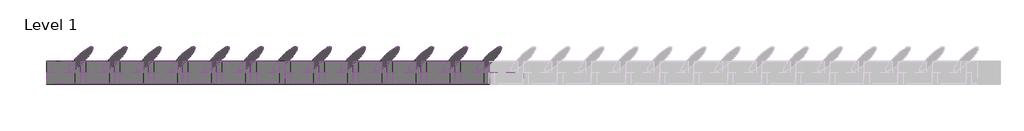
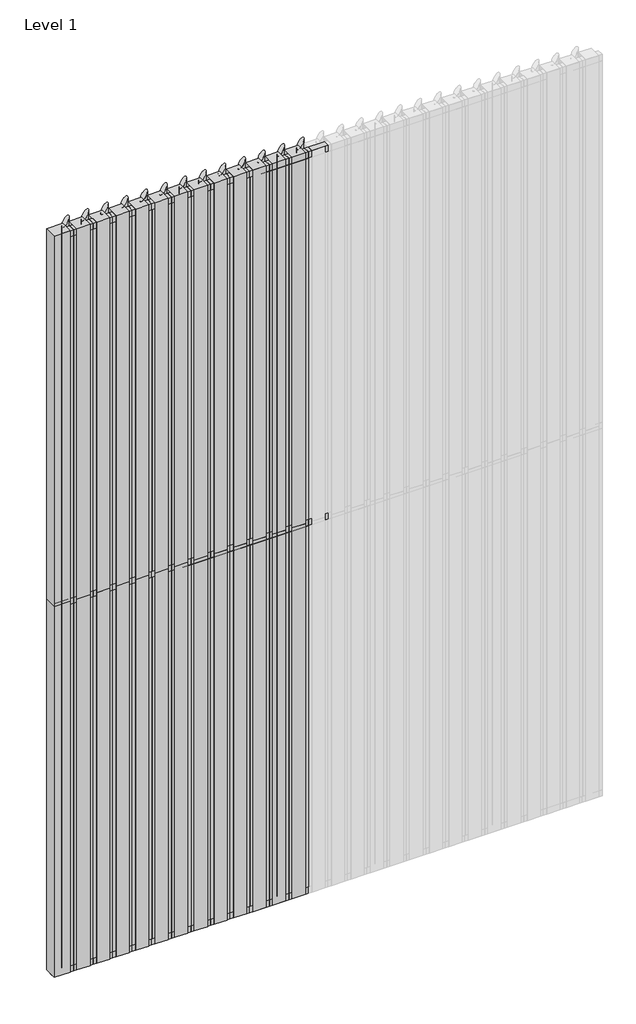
# One storey, part 1 of 3: 67 members, 52 plates.
"""IFC4 building model written with IfcOpenShell, lengths in millimetres."""

import ifcopenshell
import ifcopenshell.guid

model = None  # the IFC model being written
_history = None  # IfcOwnerHistory: only IFC2X3 demands one
_inside = {}  # id of a spatial element -> (the spatial element, [elements in it])
_under = {}  # id of a project, library or spatial element -> (it, [spatial elements below it])
_declared = {}  # id of a project -> (the project, [libraries it declares])
_typed = {}  # id of a type object -> (the type object, [elements of that type])
_made_of = {}  # id of a material, layer set ... -> (it, [elements and type objects made of it])


def new_model(schema):
    """Start an empty IFC model of exactly this schema.

    Asked for "IFC4X3", IfcOpenShell would pick the latest addendum, in which some entities
    have other attributes; the version numbers below select the first issue.
    IFC2X3 requires an IfcOwnerHistory on every rooted entity: one is made here for all.
    """
    global model, _history
    if schema == "IFC4X3":
        model = ifcopenshell.file(schema_version=(4, 3, 0, 0))
    else:
        model = ifcopenshell.file(schema=schema)
    _inside.clear()
    _under.clear()
    _declared.clear()
    _typed.clear()
    _made_of.clear()
    _history = None
    if model.schema == "IFC2X3":
        org = make("IfcOrganization", Name="unknown")
        user = make(
            "IfcPersonAndOrganization",
            ThePerson=make("IfcPerson", FamilyName="unknown"),
            TheOrganization=org,
        )
        app = make(
            "IfcApplication",
            ApplicationDeveloper=org,
            Version="unknown",
            ApplicationFullName="unknown",
            ApplicationIdentifier="unknown",
        )
        _history = make(
            "IfcOwnerHistory",
            OwningUser=user,
            OwningApplication=app,
            ChangeAction="ADDED",
            CreationDate=0,
        )
    return model


def make(cls, **values):
    """One entity of the class cls with the attributes given. An attribute that is None is left unset."""
    return model.create_entity(
        cls, **{name: value for name, value in values.items() if value is not None}
    )


def rooted(cls, **values):
    """An entity with a GlobalId (a new one), such as an element, a storey or a relation."""
    return make(cls, GlobalId=ifcopenshell.guid.new(), OwnerHistory=_history, **values)


def si_unit(unit_type, name, prefix=None):
    """IfcSIUnit, for example si_unit("LENGTHUNIT", "METRE", prefix="MILLI")."""
    return make("IfcSIUnit", UnitType=unit_type, Prefix=prefix, Name=name)


def assignment(units):
    """IfcUnitAssignment: the units of a project."""
    return None if units is None else make("IfcUnitAssignment", Units=units)


def point(xyz):
    """IfcCartesianPoint."""
    return None if xyz is None else make("IfcCartesianPoint", Coordinates=xyz)


def direction(xyz):
    """IfcDirection."""
    return None if xyz is None else make("IfcDirection", DirectionRatios=xyz)


def frame(location, z_axis=None, x_axis=None):
    """IfcAxis2Placement3D, a coordinate frame: its origin and axes. An axis left out is left unset."""
    return make(
        "IfcAxis2Placement3D",
        Location=point(location),
        Axis=direction(z_axis),
        RefDirection=direction(x_axis),
    )


def origin():
    """The frame at (0, 0, 0) with its axes left unset."""
    return frame((0.0, 0.0, 0.0))


def origin_with_axes():
    """The frame at (0, 0, 0) with the z axis (0, 0, 1) and the x axis (1, 0, 0) written out."""
    return frame((0.0, 0.0, 0.0), z_axis=(0.0, 0.0, 1.0), x_axis=(1.0, 0.0, 0.0))


def place(relative_to, where):
    """IfcLocalPlacement: puts the frame where relative to a parent placement (None: the world)."""
    return make(
        "IfcLocalPlacement", PlacementRelTo=relative_to, RelativePlacement=where
    )


def context(
    kind, dimensions, precision=None, world=None, true_north=None, identifier=None
):
    """IfcGeometricRepresentationContext, for example the 3D "Model" context."""
    return make(
        "IfcGeometricRepresentationContext",
        ContextIdentifier=identifier,
        ContextType=kind,
        CoordinateSpaceDimension=dimensions,
        Precision=precision,
        WorldCoordinateSystem=world,
        TrueNorth=true_north,
    )


def project(units=None, contexts=None):
    """IfcProject with its units and contexts."""
    return rooted(
        "IfcProject",
        Name="project",
        RepresentationContexts=contexts,
        UnitsInContext=assignment(units),
    )


def spatial(cls, under=None, at=None, **own):
    """A site, building, storey or space (cls), placed at a placement, below another one or the project."""
    s = rooted(cls, ObjectPlacement=at, **own)
    if under is not None:
        _under.setdefault(under.id(), (under, []))[1].append(s)
    return s


def polyline(points):
    """IfcPolyline through the points."""
    return make("IfcPolyline", Points=[point(p) for p in points])


def ellipse_curve(where, semi_axis1, semi_axis2):
    """IfcEllipse in the frame where."""
    return make(
        "IfcEllipse", Position=where, SemiAxis1=semi_axis1, SemiAxis2=semi_axis2
    )


def trimmed(basis, trim1, trim2, sense, master):
    """IfcTrimmedCurve: the piece of a basis curve between two trims."""
    return make(
        "IfcTrimmedCurve",
        BasisCurve=basis,
        Trim1=trim1,
        Trim2=trim2,
        SenseAgreement=sense,
        MasterRepresentation=master,
    )


def outline(outer, holes=None, kind="AREA"):
    """IfcArbitraryClosedProfileDef: a profile drawn as a closed curve; with holes, ...WithVoids."""
    if holes is None:
        return make("IfcArbitraryClosedProfileDef", ProfileType=kind, OuterCurve=outer)
    return make(
        "IfcArbitraryProfileDefWithVoids",
        ProfileType=kind,
        OuterCurve=outer,
        InnerCurves=holes,
    )


def extrude(swept, where, along, depth):
    """IfcExtrudedAreaSolid: the profile swept, set in the frame where, extruded along a direction by depth."""
    return make(
        "IfcExtrudedAreaSolid",
        SweptArea=swept,
        Position=where,
        ExtrudedDirection=direction(along),
        Depth=depth,
    )


def shape(context_of_items, identifier, shape_type, items):
    """IfcShapeRepresentation: the items that make up one representation, for example the "Body"."""
    return make(
        "IfcShapeRepresentation",
        ContextOfItems=context_of_items,
        RepresentationIdentifier=identifier,
        RepresentationType=shape_type,
        Items=items,
    )


def source(mapping_origin, context_of_items, identifier, shape_type, items):
    """IfcRepresentationMap: a shape defined once, which mapped items show again and again."""
    return make(
        "IfcRepresentationMap",
        MappingOrigin=mapping_origin,
        MappedRepresentation=shape(context_of_items, identifier, shape_type, items),
    )


def transform(
    local_origin,
    x_axis=None,
    y_axis=None,
    z_axis=None,
    scale=None,
    scale2=None,
    scale3=None,
    uniform=True,
):
    """IfcCartesianTransformationOperator3D, or its non-uniform kind. x_axis, y_axis, z_axis: its Axis1, 2, 3."""
    if uniform:
        return make(
            "IfcCartesianTransformationOperator3D",
            Axis1=direction(x_axis),
            Axis2=direction(y_axis),
            LocalOrigin=point(local_origin),
            Scale=scale,
            Axis3=direction(z_axis),
        )
    return make(
        "IfcCartesianTransformationOperator3DnonUniform",
        Axis1=direction(x_axis),
        Axis2=direction(y_axis),
        LocalOrigin=point(local_origin),
        Scale=scale,
        Axis3=direction(z_axis),
        Scale2=scale2,
        Scale3=scale3,
    )


def mapped(mapping_source, mapping_target):
    """IfcMappedItem: shows the shape of a source again, moved by a transform."""
    return make(
        "IfcMappedItem", MappingSource=mapping_source, MappingTarget=mapping_target
    )


def made_of(thing, what):
    """Note that an element or type object is made of a material, layer set ...; save() writes the relation."""
    if what is not None:
        _made_of.setdefault(what.id(), (what, []))[1].append(thing)
    return thing


def element(
    cls,
    number,
    at=None,
    inside=None,
    cuts=None,
    type_object=None,
    material=None,
    context=None,
    identifier="Body",
    shape_type=None,
    held_by="IfcProductDefinitionShape",
    body=None,
    shapes=None,
    **own,
):
    """One element of the class cls, such as IfcWall. Its Tag is "e" and its number.

    at: its placement. inside: the storey or other place that contains it. cuts: it is an
    opening in that element (IfcRelVoidsElement). A single representation is given by context,
    identifier, shape_type and body (its items); several are given by shapes. held_by: the class
    of the entity that holds the representations. save() writes the other relations.
    """
    e = rooted(cls, Tag="e%d" % number, ObjectPlacement=at, **own)
    if body is not None:
        shapes = [shape(context, identifier, shape_type, body)]
    if shapes is not None:
        e.Representation = make(held_by, Representations=shapes)
    if inside is not None:
        _inside.setdefault(inside.id(), (inside, []))[1].append(e)
    if cuts is not None:
        rooted(
            "IfcRelVoidsElement", RelatingBuildingElement=cuts, RelatedOpeningElement=e
        )
    if type_object is not None:
        _typed.setdefault(type_object.id(), (type_object, []))[1].append(e)
    return made_of(e, material)


def aggregate(whole, parts):
    """IfcRelAggregates: a whole, such as a stair, and the parts it consists of."""
    return rooted("IfcRelAggregates", RelatingObject=whole, RelatedObjects=parts)


def save(model, path):
    """Write the relations noted so far, then the file.

    IfcRelAggregates (storeys below a building ...), IfcRelContainedInSpatialStructure (elements
    in a storey), IfcRelDefinesByType, IfcRelAssociatesMaterial and IfcRelDeclares: one each for
    every whole, place, type object, material and project.
    """
    for whole, parts in _under.values():
        aggregate(whole, parts)
    for where, things in _inside.values():
        rooted(
            "IfcRelContainedInSpatialStructure",
            RelatedElements=things,
            RelatingStructure=where,
        )
    for kind, things in _typed.values():
        rooted("IfcRelDefinesByType", RelatedObjects=things, RelatingType=kind)
    for what, things in _made_of.values():
        rooted("IfcRelAssociatesMaterial", RelatedObjects=things, RelatingMaterial=what)
    for by, libraries in _declared.values():
        rooted("IfcRelDeclares", RelatingContext=by, RelatedDefinitions=libraries)
    model.write(path)


def plane_surface(at):
    """IfcPlane: the flat surface through the origin of the frame at, square to its z axis."""
    return make("IfcPlane", Position=at)


def extruded_surface(curve, direction_of_extrusion, depth):
    """IfcSurfaceOfLinearExtrusion: the curve pushed along a direction by depth."""
    return make(
        "IfcSurfaceOfLinearExtrusion",
        SweptCurve=make("IfcArbitraryOpenProfileDef", ProfileType="CURVE", Curve=curve),
        ExtrudedDirection=direction(direction_of_extrusion),
        Depth=depth,
    )


def advanced_brep(points, edges, surfaces, faces):
    """IfcAdvancedBrep: a solid bounded by faces that lie on surfaces and meet in shared edges.

    An edge is (start, end): straight between two places in points (the first is 0);
    or (start, end, curve); or (start, end, curve, False) where it runs against its curve.
    A face is (place in surfaces, loops), or (place, loops, False) where it looks against
    its surface's normal. A loop lists edges by number (the first is 1), with a minus sign
    where the edge is run from its end to its start. The first loop is the outer one.
    """
    corners = [point(p) for p in points]
    vertices = [make("IfcVertexPoint", VertexGeometry=c) for c in corners]
    made = []
    for start, end, *more in edges:
        made.append(
            make(
                "IfcEdgeCurve",
                EdgeStart=vertices[start],
                EdgeEnd=vertices[end],
                EdgeGeometry=more[0] if more else make("IfcPolyline", Points=[corners[start], corners[end]]),
                SameSense=more[1] if len(more) > 1 else True,
            )
        )
    hull = []
    for where, loops, *sense in faces:
        bounds = []
        for j, loop in enumerate(loops):
            ring = [make("IfcOrientedEdge", EdgeElement=made[abs(k) - 1], Orientation=k > 0) for k in loop]
            bounds.append(
                make(
                    "IfcFaceOuterBound" if j == 0 else "IfcFaceBound",
                    Bound=make("IfcEdgeLoop", EdgeList=ring),
                    Orientation=True,
                )
            )
        hull.append(make("IfcAdvancedFace", Bounds=bounds, FaceSurface=surfaces[where], SameSense=sense[0] if sense else True))
    return make("IfcAdvancedBrep", Outer=make("IfcClosedShell", CfsFaces=hull))


def rectangular_mullion_37c1fa86(model_context):
    return source(origin(), model_context, "Body", "AdvancedBrep", [
        advanced_brep(
        [(53.0330086, 6.9669914, 0.0), (-53.0330086, 113.0330086, 0.0), (53.0330086, 6.9669914, -3000.0), (-53.0330086, 113.0330086, -3000.0)],
        [
            (0, 1, ellipse_curve(frame((0.0, 60.0, 0.0), z_axis=(0.0, 0.0, 1.0000000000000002), x_axis=(-0.7071067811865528, 0.7071067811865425, 0.0)), 75.0, 17.5)),
            (1, 0, ellipse_curve(frame((0.0, 60.0, 0.0), z_axis=(0.0, 0.0, 1.0000000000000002), x_axis=(-0.7071067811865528, 0.7071067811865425, 0.0)), 75.0, 17.5)),
            (2, 3, ellipse_curve(frame((0.0, 60.0, -3000.0), z_axis=(0.0, 0.0, -1.0000000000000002), x_axis=(-0.7071067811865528, 0.7071067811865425, 0.0)), 75.0, 17.5)),
            (3, 2, ellipse_curve(frame((0.0, 60.0, -3000.0), z_axis=(0.0, 0.0, -1.0000000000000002), x_axis=(-0.7071067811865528, 0.7071067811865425, 0.0)), 75.0, 17.5)),
            (0, 2),
            (3, 1),
        ],
        [
            plane_surface(frame((0.0, -124.8557609, 0.0), z_axis=(0.0, 0.0, 1.0), x_axis=(-1.0, 0.0, 0.0))),
            plane_surface(frame((0.0, -124.8557609, -3000.0), z_axis=(0.0, 0.0, -1.0), x_axis=(-1.0, 0.0, 0.0))),
            extruded_surface(trimmed(ellipse_curve(frame((0.0, 60.0, -3000.0), z_axis=(0.0, 0.0, 1.0000000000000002), x_axis=(-0.7071067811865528, 0.7071067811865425, 0.0)), 75.0, 17.5), [point((53.0330086, 6.9669914, -3000.0))], [point((-53.0330086, 113.0330086, -3000.0))], True, "CARTESIAN"), (0.0, 0.0, 3000.0), 3000.0),
            extruded_surface(trimmed(ellipse_curve(frame((0.0, 60.0, -3000.0), z_axis=(0.0, 0.0, 1.0000000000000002), x_axis=(-0.7071067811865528, 0.7071067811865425, 0.0)), 75.0, 17.5), [point((-53.0330086, 113.0330086, -3000.0))], [point((53.0330086, 6.9669914, -3000.0))], True, "CARTESIAN"), (0.0, 0.0, 3000.0), 3000.0),
        ],
        [
            (0, [[1, 2]]),
            (1, [[3, 4]]),
            (2, [[-1, 5, -4, 6]]),
            (3, [[-2, -6, -3, -5]]),
        ],
    ),
    ])


def rectangular_mullion_6265e8b1(model_context):
    return source(origin(), model_context, "Body", "SweptSolid", [
        extrude(outline(polyline([(0.0, 1.0), (0.0, -49.0), (-50.0, -49.0), (-50.0, 1.0), (0.0, 1.0)])), frame((0.0, 0.0, -150.0), z_axis=(0.0, 0.0, 1.0), x_axis=(1.0, 0.0, 0.0)), (0.0, 0.0, 1.0), 150.0),
    ])


def rectangular_mullion_64cc6fdd(model_context):
    return source(origin(), model_context, "Body", "SweptSolid", [
        extrude(outline(polyline([(-50.0, 1.0), (0.0, 1.0), (0.0, -49.0), (-50.0, -49.0), (-50.0, 1.0)])), frame((0.0, 0.0, -150.0), z_axis=(0.0, 0.0, 1.0), x_axis=(1.0, 0.0, 0.0)), (0.0, 0.0, 1.0), 150.0),
    ])


def rectangular_mullion_eb4a5411(model_context):
    return source(origin(), model_context, "Body", "SweptSolid", [
        extrude(outline(polyline([(25.0, 1.0), (25.0, -49.0), (-25.0, -49.0), (-25.0, 1.0), (25.0, 1.0)])), frame((0.0, 0.0, -150.0), z_axis=(0.0, 0.0, 1.0), x_axis=(1.0, 0.0, 0.0)), (0.0, 0.0, 1.0), 150.0),
    ])


def empty_system_panel_empty_d66da160(model_context):
    return source(origin(), model_context, "Body", "SweptSolid", [
        extrude(outline(polyline([(62.6256313, -50.0), (-62.6256313, -50.0), (-62.6256313, 50.0), (62.6256313, 50.0), (62.6256313, -50.0)])), origin_with_axes(), (0.0, 0.0, 1.0), 3000.0),
    ])


def empty_system_panel_empty_f8daaecc(model_context):
    return source(origin(), model_context, "Body", "SweptSolid", [
        extrude(outline(polyline([(50.2512627, -50.0), (-50.2512627, -50.0), (-50.2512627, 50.0), (50.2512627, 50.0), (50.2512627, -50.0)])), origin_with_axes(), (0.0, 0.0, 1.0), 3000.0),
    ])


def empty_system_panel_empty_64907904(model_context):
    return source(origin(), model_context, "Body", "SweptSolid", [
        extrude(outline(polyline([(75.0, -50.0), (-75.0, -50.0), (-75.0, 50.0), (75.0, 50.0), (75.0, -50.0)])), origin_with_axes(), (0.0, 0.0, 1.0), 2925.0),
    ])


model = new_model("IFC4")

# Units and contexts
model_context = context("Model", 3, world=origin())
ifc_project = project(units=[si_unit("LENGTHUNIT", "METRE", prefix="MILLI")], contexts=[model_context])

# Site, building, storey
site = spatial("IfcSite", under=ifc_project)
building = spatial("IfcBuilding", under=site)
storey = spatial("IfcBuildingStorey", under=building, Name="Level 1", Elevation=0.0)

# Members
placement = place(None, origin())
rectangular_mullion_shape = rectangular_mullion_37c1fa86(model_context)
element("IfcMember", 1, ObjectType="Rectangular Mullion : RSen_21_CWM_blade - 150 ellips - 45°_gen_duco projects", at=placement, inside=storey, context=model_context, shape_type="MappedRepresentation", body=[
    mapped(rectangular_mullion_shape, transform((1950.0, 3000.0, 0.0), x_axis=(-1.0, 0.0, 0.0), y_axis=(0.0, 1.0, 0.0), z_axis=(0.0, 0.0, -1.0))),
])
element("IfcMember", 2, ObjectType="Rectangular Mullion : RSen_21_CWM_blade - 150 ellips - 45°_gen_duco projects", at=placement, inside=storey, context=model_context, shape_type="MappedRepresentation", body=[
    mapped(rectangular_mullion_shape, transform((1800.0, 3000.0, 0.0), x_axis=(-1.0, 0.0, 0.0), y_axis=(0.0, 1.0, 0.0), z_axis=(0.0, 0.0, -1.0))),
])
element("IfcMember", 3, ObjectType="Rectangular Mullion : RSen_21_CWM_blade - 150 ellips - 45°_gen_duco projects", at=placement, inside=storey, context=model_context, shape_type="MappedRepresentation", body=[
    mapped(rectangular_mullion_shape, transform((1650.0, 3000.0, 0.0), x_axis=(-1.0, 0.0, 0.0), y_axis=(0.0, 1.0, 0.0), z_axis=(0.0, 0.0, -1.0))),
])
element("IfcMember", 4, ObjectType="Rectangular Mullion : RSen_21_CWM_blade - 150 ellips - 45°_gen_duco projects", at=placement, inside=storey, context=model_context, shape_type="MappedRepresentation", body=[
    mapped(rectangular_mullion_shape, transform((1500.0, 3000.0, 0.0), x_axis=(-1.0, 0.0, 0.0), y_axis=(0.0, 1.0, 0.0), z_axis=(0.0, 0.0, -1.0))),
])
element("IfcMember", 5, ObjectType="Rectangular Mullion : RSen_21_CWM_blade - 150 ellips - 45°_gen_duco projects", at=placement, inside=storey, context=model_context, shape_type="MappedRepresentation", body=[
    mapped(rectangular_mullion_shape, transform((1350.0, 3000.0, 0.0), x_axis=(-1.0, 0.0, 0.0), y_axis=(0.0, 1.0, 0.0), z_axis=(0.0, 0.0, -1.0))),
])
element("IfcMember", 6, ObjectType="Rectangular Mullion : RSen_21_CWM_blade - 150 ellips - 45°_gen_duco projects", at=placement, inside=storey, context=model_context, shape_type="MappedRepresentation", body=[
    mapped(rectangular_mullion_shape, transform((1200.0, 3000.0, 0.0), x_axis=(-1.0, 0.0, 0.0), y_axis=(0.0, 1.0, 0.0), z_axis=(0.0, 0.0, -1.0))),
])
element("IfcMember", 7, ObjectType="Rectangular Mullion : RSen_21_CWM_blade - 150 ellips - 45°_gen_duco projects", at=placement, inside=storey, context=model_context, shape_type="MappedRepresentation", body=[
    mapped(rectangular_mullion_shape, transform((1050.0, 3000.0, 0.0), x_axis=(-1.0, 0.0, 0.0), y_axis=(0.0, 1.0, 0.0), z_axis=(0.0, 0.0, -1.0))),
])
element("IfcMember", 8, ObjectType="Rectangular Mullion : RSen_21_CWM_blade - 150 ellips - 45°_gen_duco projects", at=placement, inside=storey, context=model_context, shape_type="MappedRepresentation", body=[
    mapped(rectangular_mullion_shape, transform((900.0, 3000.0, 0.0), x_axis=(-1.0, 0.0, 0.0), y_axis=(0.0, 1.0, 0.0), z_axis=(0.0, 0.0, -1.0))),
])
element("IfcMember", 9, ObjectType="Rectangular Mullion : RSen_21_CWM_blade - 150 ellips - 45°_gen_duco projects", at=placement, inside=storey, context=model_context, shape_type="MappedRepresentation", body=[
    mapped(rectangular_mullion_shape, transform((750.0, 3000.0, 0.0), x_axis=(-1.0, 0.0, 0.0), y_axis=(0.0, 1.0, 0.0), z_axis=(0.0, 0.0, -1.0))),
])
element("IfcMember", 10, ObjectType="Rectangular Mullion : RSen_21_CWM_blade - 150 ellips - 45°_gen_duco projects", at=placement, inside=storey, context=model_context, shape_type="MappedRepresentation", body=[
    mapped(rectangular_mullion_shape, transform((600.0, 3000.0, 0.0), x_axis=(-1.0, 0.0, 0.0), y_axis=(0.0, 1.0, 0.0), z_axis=(0.0, 0.0, -1.0))),
])
element("IfcMember", 11, ObjectType="Rectangular Mullion : RSen_21_CWM_blade - 150 ellips - 45°_gen_duco projects", at=placement, inside=storey, context=model_context, shape_type="MappedRepresentation", body=[
    mapped(rectangular_mullion_shape, transform((450.0, 3000.0, 0.0), x_axis=(-1.0, 0.0, 0.0), y_axis=(0.0, 1.0, 0.0), z_axis=(0.0, 0.0, -1.0))),
])
element("IfcMember", 12, ObjectType="Rectangular Mullion : RSen_21_CWM_blade - 150 ellips - 45°_gen_duco projects", at=placement, inside=storey, context=model_context, shape_type="MappedRepresentation", body=[
    mapped(rectangular_mullion_shape, transform((300.0, 3000.0, 0.0), x_axis=(-1.0, 0.0, 0.0), y_axis=(0.0, 1.0, 0.0), z_axis=(0.0, 0.0, -1.0))),
])
element("IfcMember", 13, ObjectType="Rectangular Mullion : RSen_21_CWM_blade - 150 ellips - 45°_gen_duco projects", at=placement, inside=storey, context=model_context, shape_type="MappedRepresentation", body=[
    mapped(rectangular_mullion_shape, transform((150.0, 3000.0, 0.0), x_axis=(-1.0, 0.0, 0.0), y_axis=(0.0, 1.0, 0.0), z_axis=(0.0, 0.0, -1.0))),
])
element("IfcMember", 14, ObjectType="Rectangular Mullion : RSen_21_CWM_blade - 150 ellips - 45°_gen_duco projects", at=placement, inside=storey, context=model_context, shape_type="MappedRepresentation", body=[
    mapped(rectangular_mullion_shape, transform((1950.0, 3000.0, 3000.0), x_axis=(-1.0, 0.0, 0.0), y_axis=(0.0, 1.0, 0.0), z_axis=(0.0, 0.0, -1.0))),
])
element("IfcMember", 15, ObjectType="Rectangular Mullion : RSen_21_CWM_blade - 150 ellips - 45°_gen_duco projects", at=placement, inside=storey, context=model_context, shape_type="MappedRepresentation", body=[
    mapped(rectangular_mullion_shape, transform((1800.0, 3000.0, 3000.0), x_axis=(-1.0, 0.0, 0.0), y_axis=(0.0, 1.0, 0.0), z_axis=(0.0, 0.0, -1.0))),
])
element("IfcMember", 16, ObjectType="Rectangular Mullion : RSen_21_CWM_blade - 150 ellips - 45°_gen_duco projects", at=placement, inside=storey, context=model_context, shape_type="MappedRepresentation", body=[
    mapped(rectangular_mullion_shape, transform((1650.0, 3000.0, 3000.0), x_axis=(-1.0, 0.0, 0.0), y_axis=(0.0, 1.0, 0.0), z_axis=(0.0, 0.0, -1.0))),
])
element("IfcMember", 17, ObjectType="Rectangular Mullion : RSen_21_CWM_blade - 150 ellips - 45°_gen_duco projects", at=placement, inside=storey, context=model_context, shape_type="MappedRepresentation", body=[
    mapped(rectangular_mullion_shape, transform((1500.0, 3000.0, 3000.0), x_axis=(-1.0, 0.0, 0.0), y_axis=(0.0, 1.0, 0.0), z_axis=(0.0, 0.0, -1.0))),
])
element("IfcMember", 18, ObjectType="Rectangular Mullion : RSen_21_CWM_blade - 150 ellips - 45°_gen_duco projects", at=placement, inside=storey, context=model_context, shape_type="MappedRepresentation", body=[
    mapped(rectangular_mullion_shape, transform((1350.0, 3000.0, 3000.0), x_axis=(-1.0, 0.0, 0.0), y_axis=(0.0, 1.0, 0.0), z_axis=(0.0, 0.0, -1.0))),
])
element("IfcMember", 19, ObjectType="Rectangular Mullion : RSen_21_CWM_blade - 150 ellips - 45°_gen_duco projects", at=placement, inside=storey, context=model_context, shape_type="MappedRepresentation", body=[
    mapped(rectangular_mullion_shape, transform((1200.0, 3000.0, 3000.0), x_axis=(-1.0, 0.0, 0.0), y_axis=(0.0, 1.0, 0.0), z_axis=(0.0, 0.0, -1.0))),
])
element("IfcMember", 20, ObjectType="Rectangular Mullion : RSen_21_CWM_blade - 150 ellips - 45°_gen_duco projects", at=placement, inside=storey, context=model_context, shape_type="MappedRepresentation", body=[
    mapped(rectangular_mullion_shape, transform((1050.0, 3000.0, 3000.0), x_axis=(-1.0, 0.0, 0.0), y_axis=(0.0, 1.0, 0.0), z_axis=(0.0, 0.0, -1.0))),
])
element("IfcMember", 21, ObjectType="Rectangular Mullion : RSen_21_CWM_blade - 150 ellips - 45°_gen_duco projects", at=placement, inside=storey, context=model_context, shape_type="MappedRepresentation", body=[
    mapped(rectangular_mullion_shape, transform((900.0, 3000.0, 3000.0), x_axis=(-1.0, 0.0, 0.0), y_axis=(0.0, 1.0, 0.0), z_axis=(0.0, 0.0, -1.0))),
])
element("IfcMember", 22, ObjectType="Rectangular Mullion : RSen_21_CWM_blade - 150 ellips - 45°_gen_duco projects", at=placement, inside=storey, context=model_context, shape_type="MappedRepresentation", body=[
    mapped(rectangular_mullion_shape, transform((750.0, 3000.0, 3000.0), x_axis=(-1.0, 0.0, 0.0), y_axis=(0.0, 1.0, 0.0), z_axis=(0.0, 0.0, -1.0))),
])
element("IfcMember", 23, ObjectType="Rectangular Mullion : RSen_21_CWM_blade - 150 ellips - 45°_gen_duco projects", at=placement, inside=storey, context=model_context, shape_type="MappedRepresentation", body=[
    mapped(rectangular_mullion_shape, transform((600.0, 3000.0, 3000.0), x_axis=(-1.0, 0.0, 0.0), y_axis=(0.0, 1.0, 0.0), z_axis=(0.0, 0.0, -1.0))),
])
element("IfcMember", 24, ObjectType="Rectangular Mullion : RSen_21_CWM_blade - 150 ellips - 45°_gen_duco projects", at=placement, inside=storey, context=model_context, shape_type="MappedRepresentation", body=[
    mapped(rectangular_mullion_shape, transform((450.0, 3000.0, 3000.0), x_axis=(-1.0, 0.0, 0.0), y_axis=(0.0, 1.0, 0.0), z_axis=(0.0, 0.0, -1.0))),
])
element("IfcMember", 25, ObjectType="Rectangular Mullion : RSen_21_CWM_blade - 150 ellips - 45°_gen_duco projects", at=placement, inside=storey, context=model_context, shape_type="MappedRepresentation", body=[
    mapped(rectangular_mullion_shape, transform((300.0, 3000.0, 3000.0), x_axis=(-1.0, 0.0, 0.0), y_axis=(0.0, 1.0, 0.0), z_axis=(0.0, 0.0, -1.0))),
])
element("IfcMember", 26, ObjectType="Rectangular Mullion : RSen_21_CWM_blade - 150 ellips - 45°_gen_duco projects", at=placement, inside=storey, context=model_context, shape_type="MappedRepresentation", body=[
    mapped(rectangular_mullion_shape, transform((150.0, 3000.0, 3000.0), x_axis=(-1.0, 0.0, 0.0), y_axis=(0.0, 1.0, 0.0), z_axis=(0.0, 0.0, -1.0))),
])
rectangular_mullion_2_shape = rectangular_mullion_6265e8b1(model_context)
element("IfcMember", 27, ObjectType="Rectangular Mullion : RSen_21_CWM_support profile 50x50 - left_gen_duco projects", at=placement, inside=storey, context=model_context, shape_type="MappedRepresentation", body=[
    mapped(rectangular_mullion_2_shape, transform((0.0, 3000.0, 6000.0), x_axis=(0.0, 0.0, 1.0), y_axis=(0.0, 1.0, 0.0), z_axis=(-1.0, 0.0, 0.0))),
])
element("IfcMember", 28, ObjectType="Rectangular Mullion : RSen_21_CWM_support profile 50x50 - left_gen_duco projects", at=placement, inside=storey, context=model_context, shape_type="MappedRepresentation", body=[
    mapped(rectangular_mullion_2_shape, transform((1950.0, 3000.0, 6000.0), x_axis=(0.0, 0.0, 1.0), y_axis=(0.0, 1.0, 0.0), z_axis=(-1.0, 0.0, 0.0))),
])
element("IfcMember", 29, ObjectType="Rectangular Mullion : RSen_21_CWM_support profile 50x50 - left_gen_duco projects", at=placement, inside=storey, context=model_context, shape_type="MappedRepresentation", body=[
    mapped(rectangular_mullion_2_shape, transform((1800.0, 3000.0, 6000.0), x_axis=(0.0, 0.0, 1.0), y_axis=(0.0, 1.0, 0.0), z_axis=(-1.0, 0.0, 0.0))),
])
element("IfcMember", 30, ObjectType="Rectangular Mullion : RSen_21_CWM_support profile 50x50 - left_gen_duco projects", at=placement, inside=storey, context=model_context, shape_type="MappedRepresentation", body=[
    mapped(rectangular_mullion_2_shape, transform((1650.0, 3000.0, 6000.0), x_axis=(0.0, 0.0, 1.0), y_axis=(0.0, 1.0, 0.0), z_axis=(-1.0, 0.0, 0.0))),
])
element("IfcMember", 31, ObjectType="Rectangular Mullion : RSen_21_CWM_support profile 50x50 - left_gen_duco projects", at=placement, inside=storey, context=model_context, shape_type="MappedRepresentation", body=[
    mapped(rectangular_mullion_2_shape, transform((1500.0, 3000.0, 6000.0), x_axis=(0.0, 0.0, 1.0), y_axis=(0.0, 1.0, 0.0), z_axis=(-1.0, 0.0, 0.0))),
])
element("IfcMember", 32, ObjectType="Rectangular Mullion : RSen_21_CWM_support profile 50x50 - left_gen_duco projects", at=placement, inside=storey, context=model_context, shape_type="MappedRepresentation", body=[
    mapped(rectangular_mullion_2_shape, transform((1350.0, 3000.0, 6000.0), x_axis=(0.0, 0.0, 1.0), y_axis=(0.0, 1.0, 0.0), z_axis=(-1.0, 0.0, 0.0))),
])
element("IfcMember", 33, ObjectType="Rectangular Mullion : RSen_21_CWM_support profile 50x50 - left_gen_duco projects", at=placement, inside=storey, context=model_context, shape_type="MappedRepresentation", body=[
    mapped(rectangular_mullion_2_shape, transform((1200.0, 3000.0, 6000.0), x_axis=(0.0, 0.0, 1.0), y_axis=(0.0, 1.0, 0.0), z_axis=(-1.0, 0.0, 0.0))),
])
element("IfcMember", 34, ObjectType="Rectangular Mullion : RSen_21_CWM_support profile 50x50 - left_gen_duco projects", at=placement, inside=storey, context=model_context, shape_type="MappedRepresentation", body=[
    mapped(rectangular_mullion_2_shape, transform((1050.0, 3000.0, 6000.0), x_axis=(0.0, 0.0, 1.0), y_axis=(0.0, 1.0, 0.0), z_axis=(-1.0, 0.0, 0.0))),
])
element("IfcMember", 35, ObjectType="Rectangular Mullion : RSen_21_CWM_support profile 50x50 - left_gen_duco projects", at=placement, inside=storey, context=model_context, shape_type="MappedRepresentation", body=[
    mapped(rectangular_mullion_2_shape, transform((900.0, 3000.0, 6000.0), x_axis=(0.0, 0.0, 1.0), y_axis=(0.0, 1.0, 0.0), z_axis=(-1.0, 0.0, 0.0))),
])
element("IfcMember", 36, ObjectType="Rectangular Mullion : RSen_21_CWM_support profile 50x50 - left_gen_duco projects", at=placement, inside=storey, context=model_context, shape_type="MappedRepresentation", body=[
    mapped(rectangular_mullion_2_shape, transform((750.0, 3000.0, 6000.0), x_axis=(0.0, 0.0, 1.0), y_axis=(0.0, 1.0, 0.0), z_axis=(-1.0, 0.0, 0.0))),
])
element("IfcMember", 37, ObjectType="Rectangular Mullion : RSen_21_CWM_support profile 50x50 - left_gen_duco projects", at=placement, inside=storey, context=model_context, shape_type="MappedRepresentation", body=[
    mapped(rectangular_mullion_2_shape, transform((600.0, 3000.0, 6000.0), x_axis=(0.0, 0.0, 1.0), y_axis=(0.0, 1.0, 0.0), z_axis=(-1.0, 0.0, 0.0))),
])
element("IfcMember", 38, ObjectType="Rectangular Mullion : RSen_21_CWM_support profile 50x50 - left_gen_duco projects", at=placement, inside=storey, context=model_context, shape_type="MappedRepresentation", body=[
    mapped(rectangular_mullion_2_shape, transform((450.0, 3000.0, 6000.0), x_axis=(0.0, 0.0, 1.0), y_axis=(0.0, 1.0, 0.0), z_axis=(-1.0, 0.0, 0.0))),
])
element("IfcMember", 39, ObjectType="Rectangular Mullion : RSen_21_CWM_support profile 50x50 - left_gen_duco projects", at=placement, inside=storey, context=model_context, shape_type="MappedRepresentation", body=[
    mapped(rectangular_mullion_2_shape, transform((300.0, 3000.0, 6000.0), x_axis=(0.0, 0.0, 1.0), y_axis=(0.0, 1.0, 0.0), z_axis=(-1.0, 0.0, 0.0))),
])
element("IfcMember", 40, ObjectType="Rectangular Mullion : RSen_21_CWM_support profile 50x50 - left_gen_duco projects", at=placement, inside=storey, context=model_context, shape_type="MappedRepresentation", body=[
    mapped(rectangular_mullion_2_shape, transform((150.0, 3000.0, 6000.0), x_axis=(0.0, 0.0, 1.0), y_axis=(0.0, 1.0, 0.0), z_axis=(-1.0, 0.0, 0.0))),
])
rectangular_mullion_3_shape = rectangular_mullion_64cc6fdd(model_context)
element("IfcMember", 41, ObjectType="Rectangular Mullion : RSen_21_CWM_support profile 50x50 - right_gen_duco projects", at=placement, inside=storey, context=model_context, shape_type="MappedRepresentation", body=[
    mapped(rectangular_mullion_3_shape, transform((1950.0, 3000.0, 0.0), x_axis=(0.0, 0.0, -1.0), y_axis=(0.0, 1.0, 0.0), z_axis=(1.0, 0.0, 0.0))),
])
element("IfcMember", 42, ObjectType="Rectangular Mullion : RSen_21_CWM_support profile 50x50 - right_gen_duco projects", at=placement, inside=storey, context=model_context, shape_type="MappedRepresentation", body=[
    mapped(rectangular_mullion_3_shape, transform((1800.0, 3000.0, 0.0), x_axis=(0.0, 0.0, -1.0), y_axis=(0.0, 1.0, 0.0), z_axis=(1.0, 0.0, 0.0))),
])
element("IfcMember", 43, ObjectType="Rectangular Mullion : RSen_21_CWM_support profile 50x50 - right_gen_duco projects", at=placement, inside=storey, context=model_context, shape_type="MappedRepresentation", body=[
    mapped(rectangular_mullion_3_shape, transform((1650.0, 3000.0, 0.0), x_axis=(0.0, 0.0, -1.0), y_axis=(0.0, 1.0, 0.0), z_axis=(1.0, 0.0, 0.0))),
])
element("IfcMember", 44, ObjectType="Rectangular Mullion : RSen_21_CWM_support profile 50x50 - right_gen_duco projects", at=placement, inside=storey, context=model_context, shape_type="MappedRepresentation", body=[
    mapped(rectangular_mullion_3_shape, transform((1500.0, 3000.0, 0.0), x_axis=(0.0, 0.0, -1.0), y_axis=(0.0, 1.0, 0.0), z_axis=(1.0, 0.0, 0.0))),
])
element("IfcMember", 45, ObjectType="Rectangular Mullion : RSen_21_CWM_support profile 50x50 - right_gen_duco projects", at=placement, inside=storey, context=model_context, shape_type="MappedRepresentation", body=[
    mapped(rectangular_mullion_3_shape, transform((1350.0, 3000.0, 0.0), x_axis=(0.0, 0.0, -1.0), y_axis=(0.0, 1.0, 0.0), z_axis=(1.0, 0.0, 0.0))),
])
element("IfcMember", 46, ObjectType="Rectangular Mullion : RSen_21_CWM_support profile 50x50 - right_gen_duco projects", at=placement, inside=storey, context=model_context, shape_type="MappedRepresentation", body=[
    mapped(rectangular_mullion_3_shape, transform((1200.0, 3000.0, 0.0), x_axis=(0.0, 0.0, -1.0), y_axis=(0.0, 1.0, 0.0), z_axis=(1.0, 0.0, 0.0))),
])
element("IfcMember", 47, ObjectType="Rectangular Mullion : RSen_21_CWM_support profile 50x50 - right_gen_duco projects", at=placement, inside=storey, context=model_context, shape_type="MappedRepresentation", body=[
    mapped(rectangular_mullion_3_shape, transform((1050.0, 3000.0, 0.0), x_axis=(0.0, 0.0, -1.0), y_axis=(0.0, 1.0, 0.0), z_axis=(1.0, 0.0, 0.0))),
])
element("IfcMember", 48, ObjectType="Rectangular Mullion : RSen_21_CWM_support profile 50x50 - right_gen_duco projects", at=placement, inside=storey, context=model_context, shape_type="MappedRepresentation", body=[
    mapped(rectangular_mullion_3_shape, transform((900.0, 3000.0, 0.0), x_axis=(0.0, 0.0, -1.0), y_axis=(0.0, 1.0, 0.0), z_axis=(1.0, 0.0, 0.0))),
])
element("IfcMember", 49, ObjectType="Rectangular Mullion : RSen_21_CWM_support profile 50x50 - right_gen_duco projects", at=placement, inside=storey, context=model_context, shape_type="MappedRepresentation", body=[
    mapped(rectangular_mullion_3_shape, transform((750.0, 3000.0, 0.0), x_axis=(0.0, 0.0, -1.0), y_axis=(0.0, 1.0, 0.0), z_axis=(1.0, 0.0, 0.0))),
])
element("IfcMember", 50, ObjectType="Rectangular Mullion : RSen_21_CWM_support profile 50x50 - right_gen_duco projects", at=placement, inside=storey, context=model_context, shape_type="MappedRepresentation", body=[
    mapped(rectangular_mullion_3_shape, transform((600.0, 3000.0, 0.0), x_axis=(0.0, 0.0, -1.0), y_axis=(0.0, 1.0, 0.0), z_axis=(1.0, 0.0, 0.0))),
])
element("IfcMember", 51, ObjectType="Rectangular Mullion : RSen_21_CWM_support profile 50x50 - right_gen_duco projects", at=placement, inside=storey, context=model_context, shape_type="MappedRepresentation", body=[
    mapped(rectangular_mullion_3_shape, transform((450.0, 3000.0, 0.0), x_axis=(0.0, 0.0, -1.0), y_axis=(0.0, 1.0, 0.0), z_axis=(1.0, 0.0, 0.0))),
])
element("IfcMember", 52, ObjectType="Rectangular Mullion : RSen_21_CWM_support profile 50x50 - right_gen_duco projects", at=placement, inside=storey, context=model_context, shape_type="MappedRepresentation", body=[
    mapped(rectangular_mullion_3_shape, transform((300.0, 3000.0, 0.0), x_axis=(0.0, 0.0, -1.0), y_axis=(0.0, 1.0, 0.0), z_axis=(1.0, 0.0, 0.0))),
])
element("IfcMember", 53, ObjectType="Rectangular Mullion : RSen_21_CWM_support profile 50x50 - right_gen_duco projects", at=placement, inside=storey, context=model_context, shape_type="MappedRepresentation", body=[
    mapped(rectangular_mullion_3_shape, transform((150.0, 3000.0, 0.0), x_axis=(0.0, 0.0, -1.0), y_axis=(0.0, 1.0, 0.0), z_axis=(1.0, 0.0, 0.0))),
])
rectangular_mullion_4_shape = rectangular_mullion_eb4a5411(model_context)
element("IfcMember", 54, ObjectType="Rectangular Mullion : RSen_21_CWM_support profile 50x50_gen_duco projects", at=placement, inside=storey, context=model_context, shape_type="MappedRepresentation", body=[
    mapped(rectangular_mullion_4_shape, transform((1950.0, 3000.0, 3000.0), x_axis=(0.0, 0.0, 1.0), y_axis=(0.0, 1.0, 0.0), z_axis=(-1.0, 0.0, 0.0))),
])
element("IfcMember", 55, ObjectType="Rectangular Mullion : RSen_21_CWM_support profile 50x50_gen_duco projects", at=placement, inside=storey, context=model_context, shape_type="MappedRepresentation", body=[
    mapped(rectangular_mullion_4_shape, transform((1800.0, 3000.0, 3000.0), x_axis=(0.0, 0.0, 1.0), y_axis=(0.0, 1.0, 0.0), z_axis=(-1.0, 0.0, 0.0))),
])
element("IfcMember", 56, ObjectType="Rectangular Mullion : RSen_21_CWM_support profile 50x50_gen_duco projects", at=placement, inside=storey, context=model_context, shape_type="MappedRepresentation", body=[
    mapped(rectangular_mullion_4_shape, transform((1650.0, 3000.0, 3000.0), x_axis=(0.0, 0.0, 1.0), y_axis=(0.0, 1.0, 0.0), z_axis=(-1.0, 0.0, 0.0))),
])
element("IfcMember", 57, ObjectType="Rectangular Mullion : RSen_21_CWM_support profile 50x50_gen_duco projects", at=placement, inside=storey, context=model_context, shape_type="MappedRepresentation", body=[
    mapped(rectangular_mullion_4_shape, transform((1500.0, 3000.0, 3000.0), x_axis=(0.0, 0.0, 1.0), y_axis=(0.0, 1.0, 0.0), z_axis=(-1.0, 0.0, 0.0))),
])
element("IfcMember", 58, ObjectType="Rectangular Mullion : RSen_21_CWM_support profile 50x50_gen_duco projects", at=placement, inside=storey, context=model_context, shape_type="MappedRepresentation", body=[
    mapped(rectangular_mullion_4_shape, transform((1350.0, 3000.0, 3000.0), x_axis=(0.0, 0.0, 1.0), y_axis=(0.0, 1.0, 0.0), z_axis=(-1.0, 0.0, 0.0))),
])
element("IfcMember", 59, ObjectType="Rectangular Mullion : RSen_21_CWM_support profile 50x50_gen_duco projects", at=placement, inside=storey, context=model_context, shape_type="MappedRepresentation", body=[
    mapped(rectangular_mullion_4_shape, transform((1200.0, 3000.0, 3000.0), x_axis=(0.0, 0.0, 1.0), y_axis=(0.0, 1.0, 0.0), z_axis=(-1.0, 0.0, 0.0))),
])
element("IfcMember", 60, ObjectType="Rectangular Mullion : RSen_21_CWM_support profile 50x50_gen_duco projects", at=placement, inside=storey, context=model_context, shape_type="MappedRepresentation", body=[
    mapped(rectangular_mullion_4_shape, transform((1050.0, 3000.0, 3000.0), x_axis=(0.0, 0.0, 1.0), y_axis=(0.0, 1.0, 0.0), z_axis=(-1.0, 0.0, 0.0))),
])
element("IfcMember", 61, ObjectType="Rectangular Mullion : RSen_21_CWM_support profile 50x50_gen_duco projects", at=placement, inside=storey, context=model_context, shape_type="MappedRepresentation", body=[
    mapped(rectangular_mullion_4_shape, transform((900.0, 3000.0, 3000.0), x_axis=(0.0, 0.0, 1.0), y_axis=(0.0, 1.0, 0.0), z_axis=(-1.0, 0.0, 0.0))),
])
element("IfcMember", 62, ObjectType="Rectangular Mullion : RSen_21_CWM_support profile 50x50_gen_duco projects", at=placement, inside=storey, context=model_context, shape_type="MappedRepresentation", body=[
    mapped(rectangular_mullion_4_shape, transform((750.0, 3000.0, 3000.0), x_axis=(0.0, 0.0, 1.0), y_axis=(0.0, 1.0, 0.0), z_axis=(-1.0, 0.0, 0.0))),
])
element("IfcMember", 63, ObjectType="Rectangular Mullion : RSen_21_CWM_support profile 50x50_gen_duco projects", at=placement, inside=storey, context=model_context, shape_type="MappedRepresentation", body=[
    mapped(rectangular_mullion_4_shape, transform((600.0, 3000.0, 3000.0), x_axis=(0.0, 0.0, 1.0), y_axis=(0.0, 1.0, 0.0), z_axis=(-1.0, 0.0, 0.0))),
])
element("IfcMember", 64, ObjectType="Rectangular Mullion : RSen_21_CWM_support profile 50x50_gen_duco projects", at=placement, inside=storey, context=model_context, shape_type="MappedRepresentation", body=[
    mapped(rectangular_mullion_4_shape, transform((450.0, 3000.0, 3000.0), x_axis=(0.0, 0.0, 1.0), y_axis=(0.0, 1.0, 0.0), z_axis=(-1.0, 0.0, 0.0))),
])
element("IfcMember", 65, ObjectType="Rectangular Mullion : RSen_21_CWM_support profile 50x50_gen_duco projects", at=placement, inside=storey, context=model_context, shape_type="MappedRepresentation", body=[
    mapped(rectangular_mullion_4_shape, transform((300.0, 3000.0, 3000.0), x_axis=(0.0, 0.0, 1.0), y_axis=(0.0, 1.0, 0.0), z_axis=(-1.0, 0.0, 0.0))),
])
element("IfcMember", 66, ObjectType="Rectangular Mullion : RSen_21_CWM_support profile 50x50_gen_duco projects", at=placement, inside=storey, context=model_context, shape_type="MappedRepresentation", body=[
    mapped(rectangular_mullion_4_shape, transform((150.0, 3000.0, 3000.0), x_axis=(0.0, 0.0, 1.0), y_axis=(0.0, 1.0, 0.0), z_axis=(-1.0, 0.0, 0.0))),
])
element("IfcMember", 67, ObjectType="Rectangular Mullion : RSen_21_CWM_support profile 50x50_gen_duco projects", at=placement, inside=storey, context=model_context, shape_type="MappedRepresentation", body=[
    mapped(rectangular_mullion_4_shape, transform((0.0, 3000.0, 3000.0), x_axis=(0.0, 0.0, 1.0), y_axis=(0.0, 1.0, 0.0), z_axis=(-1.0, 0.0, 0.0))),
])

# Plates
empty_system_panel_empty_shape = empty_system_panel_empty_d66da160(model_context)
element("IfcPlate", 68, ObjectType="Empty System Panel : Empty", at=placement, inside=storey, context=model_context, shape_type="MappedRepresentation", body=[
    mapped(empty_system_panel_empty_shape, transform((62.6256313, 3000.0, 0.0), x_axis=(-1.0, 0.0, 0.0), y_axis=(0.0, -1.0, 0.0), z_axis=(0.0, 0.0, 1.0))),
])
element("IfcPlate", 69, ObjectType="Empty System Panel : Empty", at=placement, inside=storey, context=model_context, shape_type="MappedRepresentation", body=[
    mapped(empty_system_panel_empty_shape, transform((62.6256313, 3000.0, 3000.0), x_axis=(-1.0, 0.0, 0.0), y_axis=(0.0, -1.0, 0.0), z_axis=(0.0, 0.0, 1.0))),
])
empty_system_panel_empty_2_shape = empty_system_panel_empty_f8daaecc(model_context)
element("IfcPlate", 70, ObjectType="Empty System Panel : Empty", at=placement, inside=storey, context=model_context, shape_type="MappedRepresentation", body=[
    mapped(empty_system_panel_empty_2_shape, transform((1875.0, 3000.0, 0.0), x_axis=(-1.0, 0.0, 0.0), y_axis=(0.0, -1.0, 0.0), z_axis=(0.0, 0.0, 1.0))),
])
element("IfcPlate", 71, ObjectType="Empty System Panel : Empty", at=placement, inside=storey, context=model_context, shape_type="MappedRepresentation", body=[
    mapped(empty_system_panel_empty_2_shape, transform((1725.0, 3000.0, 0.0), x_axis=(-1.0, 0.0, 0.0), y_axis=(0.0, -1.0, 0.0), z_axis=(0.0, 0.0, 1.0))),
])
element("IfcPlate", 72, ObjectType="Empty System Panel : Empty", at=placement, inside=storey, context=model_context, shape_type="MappedRepresentation", body=[
    mapped(empty_system_panel_empty_2_shape, transform((1575.0, 3000.0, 0.0), x_axis=(-1.0, 0.0, 0.0), y_axis=(0.0, -1.0, 0.0), z_axis=(0.0, 0.0, 1.0))),
])
element("IfcPlate", 73, ObjectType="Empty System Panel : Empty", at=placement, inside=storey, context=model_context, shape_type="MappedRepresentation", body=[
    mapped(empty_system_panel_empty_2_shape, transform((1425.0, 3000.0, 0.0), x_axis=(-1.0, 0.0, 0.0), y_axis=(0.0, -1.0, 0.0), z_axis=(0.0, 0.0, 1.0))),
])
element("IfcPlate", 74, ObjectType="Empty System Panel : Empty", at=placement, inside=storey, context=model_context, shape_type="MappedRepresentation", body=[
    mapped(empty_system_panel_empty_2_shape, transform((1275.0, 3000.0, 0.0), x_axis=(-1.0, 0.0, 0.0), y_axis=(0.0, -1.0, 0.0), z_axis=(0.0, 0.0, 1.0))),
])
element("IfcPlate", 75, ObjectType="Empty System Panel : Empty", at=placement, inside=storey, context=model_context, shape_type="MappedRepresentation", body=[
    mapped(empty_system_panel_empty_2_shape, transform((1125.0, 3000.0, 0.0), x_axis=(-1.0, 0.0, 0.0), y_axis=(0.0, -1.0, 0.0), z_axis=(0.0, 0.0, 1.0))),
])
element("IfcPlate", 76, ObjectType="Empty System Panel : Empty", at=placement, inside=storey, context=model_context, shape_type="MappedRepresentation", body=[
    mapped(empty_system_panel_empty_2_shape, transform((975.0, 3000.0, 0.0), x_axis=(-1.0, 0.0, 0.0), y_axis=(0.0, -1.0, 0.0), z_axis=(0.0, 0.0, 1.0))),
])
element("IfcPlate", 77, ObjectType="Empty System Panel : Empty", at=placement, inside=storey, context=model_context, shape_type="MappedRepresentation", body=[
    mapped(empty_system_panel_empty_2_shape, transform((825.0, 3000.0, 0.0), x_axis=(-1.0, 0.0, 0.0), y_axis=(0.0, -1.0, 0.0), z_axis=(0.0, 0.0, 1.0))),
])
element("IfcPlate", 78, ObjectType="Empty System Panel : Empty", at=placement, inside=storey, context=model_context, shape_type="MappedRepresentation", body=[
    mapped(empty_system_panel_empty_2_shape, transform((675.0, 3000.0, 0.0), x_axis=(-1.0, 0.0, 0.0), y_axis=(0.0, -1.0, 0.0), z_axis=(0.0, 0.0, 1.0))),
])
element("IfcPlate", 79, ObjectType="Empty System Panel : Empty", at=placement, inside=storey, context=model_context, shape_type="MappedRepresentation", body=[
    mapped(empty_system_panel_empty_2_shape, transform((525.0, 3000.0, 0.0), x_axis=(-1.0, 0.0, 0.0), y_axis=(0.0, -1.0, 0.0), z_axis=(0.0, 0.0, 1.0))),
])
element("IfcPlate", 80, ObjectType="Empty System Panel : Empty", at=placement, inside=storey, context=model_context, shape_type="MappedRepresentation", body=[
    mapped(empty_system_panel_empty_2_shape, transform((375.0, 3000.0, 0.0), x_axis=(-1.0, 0.0, 0.0), y_axis=(0.0, -1.0, 0.0), z_axis=(0.0, 0.0, 1.0))),
])
element("IfcPlate", 81, ObjectType="Empty System Panel : Empty", at=placement, inside=storey, context=model_context, shape_type="MappedRepresentation", body=[
    mapped(empty_system_panel_empty_2_shape, transform((225.0, 3000.0, 0.0), x_axis=(-1.0, 0.0, 0.0), y_axis=(0.0, -1.0, 0.0), z_axis=(0.0, 0.0, 1.0))),
])
element("IfcPlate", 82, ObjectType="Empty System Panel : Empty", at=placement, inside=storey, context=model_context, shape_type="MappedRepresentation", body=[
    mapped(empty_system_panel_empty_2_shape, transform((1875.0, 3000.0, 3000.0), x_axis=(-1.0, 0.0, 0.0), y_axis=(0.0, -1.0, 0.0), z_axis=(0.0, 0.0, 1.0))),
])
element("IfcPlate", 83, ObjectType="Empty System Panel : Empty", at=placement, inside=storey, context=model_context, shape_type="MappedRepresentation", body=[
    mapped(empty_system_panel_empty_2_shape, transform((1725.0, 3000.0, 3000.0), x_axis=(-1.0, 0.0, 0.0), y_axis=(0.0, -1.0, 0.0), z_axis=(0.0, 0.0, 1.0))),
])
element("IfcPlate", 84, ObjectType="Empty System Panel : Empty", at=placement, inside=storey, context=model_context, shape_type="MappedRepresentation", body=[
    mapped(empty_system_panel_empty_2_shape, transform((1575.0, 3000.0, 3000.0), x_axis=(-1.0, 0.0, 0.0), y_axis=(0.0, -1.0, 0.0), z_axis=(0.0, 0.0, 1.0))),
])
element("IfcPlate", 85, ObjectType="Empty System Panel : Empty", at=placement, inside=storey, context=model_context, shape_type="MappedRepresentation", body=[
    mapped(empty_system_panel_empty_2_shape, transform((1425.0, 3000.0, 3000.0), x_axis=(-1.0, 0.0, 0.0), y_axis=(0.0, -1.0, 0.0), z_axis=(0.0, 0.0, 1.0))),
])
element("IfcPlate", 86, ObjectType="Empty System Panel : Empty", at=placement, inside=storey, context=model_context, shape_type="MappedRepresentation", body=[
    mapped(empty_system_panel_empty_2_shape, transform((1275.0, 3000.0, 3000.0), x_axis=(-1.0, 0.0, 0.0), y_axis=(0.0, -1.0, 0.0), z_axis=(0.0, 0.0, 1.0))),
])
element("IfcPlate", 87, ObjectType="Empty System Panel : Empty", at=placement, inside=storey, context=model_context, shape_type="MappedRepresentation", body=[
    mapped(empty_system_panel_empty_2_shape, transform((1125.0, 3000.0, 3000.0), x_axis=(-1.0, 0.0, 0.0), y_axis=(0.0, -1.0, 0.0), z_axis=(0.0, 0.0, 1.0))),
])
element("IfcPlate", 88, ObjectType="Empty System Panel : Empty", at=placement, inside=storey, context=model_context, shape_type="MappedRepresentation", body=[
    mapped(empty_system_panel_empty_2_shape, transform((975.0, 3000.0, 3000.0), x_axis=(-1.0, 0.0, 0.0), y_axis=(0.0, -1.0, 0.0), z_axis=(0.0, 0.0, 1.0))),
])
element("IfcPlate", 89, ObjectType="Empty System Panel : Empty", at=placement, inside=storey, context=model_context, shape_type="MappedRepresentation", body=[
    mapped(empty_system_panel_empty_2_shape, transform((825.0, 3000.0, 3000.0), x_axis=(-1.0, 0.0, 0.0), y_axis=(0.0, -1.0, 0.0), z_axis=(0.0, 0.0, 1.0))),
])
element("IfcPlate", 90, ObjectType="Empty System Panel : Empty", at=placement, inside=storey, context=model_context, shape_type="MappedRepresentation", body=[
    mapped(empty_system_panel_empty_2_shape, transform((675.0, 3000.0, 3000.0), x_axis=(-1.0, 0.0, 0.0), y_axis=(0.0, -1.0, 0.0), z_axis=(0.0, 0.0, 1.0))),
])
element("IfcPlate", 91, ObjectType="Empty System Panel : Empty", at=placement, inside=storey, context=model_context, shape_type="MappedRepresentation", body=[
    mapped(empty_system_panel_empty_2_shape, transform((525.0, 3000.0, 3000.0), x_axis=(-1.0, 0.0, 0.0), y_axis=(0.0, -1.0, 0.0), z_axis=(0.0, 0.0, 1.0))),
])
element("IfcPlate", 92, ObjectType="Empty System Panel : Empty", at=placement, inside=storey, context=model_context, shape_type="MappedRepresentation", body=[
    mapped(empty_system_panel_empty_2_shape, transform((375.0, 3000.0, 3000.0), x_axis=(-1.0, 0.0, 0.0), y_axis=(0.0, -1.0, 0.0), z_axis=(0.0, 0.0, 1.0))),
])
element("IfcPlate", 93, ObjectType="Empty System Panel : Empty", at=placement, inside=storey, context=model_context, shape_type="MappedRepresentation", body=[
    mapped(empty_system_panel_empty_2_shape, transform((225.0, 3000.0, 3000.0), x_axis=(-1.0, 0.0, 0.0), y_axis=(0.0, -1.0, 0.0), z_axis=(0.0, 0.0, 1.0))),
])
empty_system_panel_empty_3_shape = empty_system_panel_empty_64907904(model_context)
element("IfcPlate", 94, ObjectType="Empty System Panel : Empty", at=placement, inside=storey, context=model_context, shape_type="MappedRepresentation", body=[
    mapped(empty_system_panel_empty_3_shape, transform((1875.0, 3000.0, 50.0), x_axis=(-1.0, 0.0, 0.0), y_axis=(0.0, -1.0, 0.0), z_axis=(0.0, 0.0, 1.0))),
])
element("IfcPlate", 95, ObjectType="Empty System Panel : Empty", at=placement, inside=storey, context=model_context, shape_type="MappedRepresentation", body=[
    mapped(empty_system_panel_empty_3_shape, transform((1725.0, 3000.0, 50.0), x_axis=(-1.0, 0.0, 0.0), y_axis=(0.0, -1.0, 0.0), z_axis=(0.0, 0.0, 1.0))),
])
element("IfcPlate", 96, ObjectType="Empty System Panel : Empty", at=placement, inside=storey, context=model_context, shape_type="MappedRepresentation", body=[
    mapped(empty_system_panel_empty_3_shape, transform((1575.0, 3000.0, 50.0), x_axis=(-1.0, 0.0, 0.0), y_axis=(0.0, -1.0, 0.0), z_axis=(0.0, 0.0, 1.0))),
])
element("IfcPlate", 97, ObjectType="Empty System Panel : Empty", at=placement, inside=storey, context=model_context, shape_type="MappedRepresentation", body=[
    mapped(empty_system_panel_empty_3_shape, transform((1425.0, 3000.0, 50.0), x_axis=(-1.0, 0.0, 0.0), y_axis=(0.0, -1.0, 0.0), z_axis=(0.0, 0.0, 1.0))),
])
element("IfcPlate", 98, ObjectType="Empty System Panel : Empty", at=placement, inside=storey, context=model_context, shape_type="MappedRepresentation", body=[
    mapped(empty_system_panel_empty_3_shape, transform((1275.0, 3000.0, 50.0), x_axis=(-1.0, 0.0, 0.0), y_axis=(0.0, -1.0, 0.0), z_axis=(0.0, 0.0, 1.0))),
])
element("IfcPlate", 99, ObjectType="Empty System Panel : Empty", at=placement, inside=storey, context=model_context, shape_type="MappedRepresentation", body=[
    mapped(empty_system_panel_empty_3_shape, transform((1125.0, 3000.0, 50.0), x_axis=(-1.0, 0.0, 0.0), y_axis=(0.0, -1.0, 0.0), z_axis=(0.0, 0.0, 1.0))),
])
element("IfcPlate", 100, ObjectType="Empty System Panel : Empty", at=placement, inside=storey, context=model_context, shape_type="MappedRepresentation", body=[
    mapped(empty_system_panel_empty_3_shape, transform((975.0, 3000.0, 50.0), x_axis=(-1.0, 0.0, 0.0), y_axis=(0.0, -1.0, 0.0), z_axis=(0.0, 0.0, 1.0))),
])
element("IfcPlate", 101, ObjectType="Empty System Panel : Empty", at=placement, inside=storey, context=model_context, shape_type="MappedRepresentation", body=[
    mapped(empty_system_panel_empty_3_shape, transform((825.0, 3000.0, 50.0), x_axis=(-1.0, 0.0, 0.0), y_axis=(0.0, -1.0, 0.0), z_axis=(0.0, 0.0, 1.0))),
])
element("IfcPlate", 102, ObjectType="Empty System Panel : Empty", at=placement, inside=storey, context=model_context, shape_type="MappedRepresentation", body=[
    mapped(empty_system_panel_empty_3_shape, transform((675.0, 3000.0, 50.0), x_axis=(-1.0, 0.0, 0.0), y_axis=(0.0, -1.0, 0.0), z_axis=(0.0, 0.0, 1.0))),
])
element("IfcPlate", 103, ObjectType="Empty System Panel : Empty", at=placement, inside=storey, context=model_context, shape_type="MappedRepresentation", body=[
    mapped(empty_system_panel_empty_3_shape, transform((525.0, 3000.0, 50.0), x_axis=(-1.0, 0.0, 0.0), y_axis=(0.0, -1.0, 0.0), z_axis=(0.0, 0.0, 1.0))),
])
element("IfcPlate", 104, ObjectType="Empty System Panel : Empty", at=placement, inside=storey, context=model_context, shape_type="MappedRepresentation", body=[
    mapped(empty_system_panel_empty_3_shape, transform((375.0, 3000.0, 50.0), x_axis=(-1.0, 0.0, 0.0), y_axis=(0.0, -1.0, 0.0), z_axis=(0.0, 0.0, 1.0))),
])
element("IfcPlate", 105, ObjectType="Empty System Panel : Empty", at=placement, inside=storey, context=model_context, shape_type="MappedRepresentation", body=[
    mapped(empty_system_panel_empty_3_shape, transform((225.0, 3000.0, 50.0), x_axis=(-1.0, 0.0, 0.0), y_axis=(0.0, -1.0, 0.0), z_axis=(0.0, 0.0, 1.0))),
])
element("IfcPlate", 106, ObjectType="Empty System Panel : Empty", at=placement, inside=storey, context=model_context, shape_type="MappedRepresentation", body=[
    mapped(empty_system_panel_empty_3_shape, transform((75.0, 3000.0, 50.0), x_axis=(-1.0, 0.0, 0.0), y_axis=(0.0, -1.0, 0.0), z_axis=(0.0, 0.0, 1.0))),
])
element("IfcPlate", 107, ObjectType="Empty System Panel : Empty", at=placement, inside=storey, context=model_context, shape_type="MappedRepresentation", body=[
    mapped(empty_system_panel_empty_3_shape, transform((1875.0, 3000.0, 3025.0), x_axis=(-1.0, 0.0, 0.0), y_axis=(0.0, -1.0, 0.0), z_axis=(0.0, 0.0, 1.0))),
])
element("IfcPlate", 108, ObjectType="Empty System Panel : Empty", at=placement, inside=storey, context=model_context, shape_type="MappedRepresentation", body=[
    mapped(empty_system_panel_empty_3_shape, transform((1725.0, 3000.0, 3025.0), x_axis=(-1.0, 0.0, 0.0), y_axis=(0.0, -1.0, 0.0), z_axis=(0.0, 0.0, 1.0))),
])
element("IfcPlate", 109, ObjectType="Empty System Panel : Empty", at=placement, inside=storey, context=model_context, shape_type="MappedRepresentation", body=[
    mapped(empty_system_panel_empty_3_shape, transform((1575.0, 3000.0, 3025.0), x_axis=(-1.0, 0.0, 0.0), y_axis=(0.0, -1.0, 0.0), z_axis=(0.0, 0.0, 1.0))),
])
element("IfcPlate", 110, ObjectType="Empty System Panel : Empty", at=placement, inside=storey, context=model_context, shape_type="MappedRepresentation", body=[
    mapped(empty_system_panel_empty_3_shape, transform((1425.0, 3000.0, 3025.0), x_axis=(-1.0, 0.0, 0.0), y_axis=(0.0, -1.0, 0.0), z_axis=(0.0, 0.0, 1.0))),
])
element("IfcPlate", 111, ObjectType="Empty System Panel : Empty", at=placement, inside=storey, context=model_context, shape_type="MappedRepresentation", body=[
    mapped(empty_system_panel_empty_3_shape, transform((1275.0, 3000.0, 3025.0), x_axis=(-1.0, 0.0, 0.0), y_axis=(0.0, -1.0, 0.0), z_axis=(0.0, 0.0, 1.0))),
])
element("IfcPlate", 112, ObjectType="Empty System Panel : Empty", at=placement, inside=storey, context=model_context, shape_type="MappedRepresentation", body=[
    mapped(empty_system_panel_empty_3_shape, transform((1125.0, 3000.0, 3025.0), x_axis=(-1.0, 0.0, 0.0), y_axis=(0.0, -1.0, 0.0), z_axis=(0.0, 0.0, 1.0))),
])
element("IfcPlate", 113, ObjectType="Empty System Panel : Empty", at=placement, inside=storey, context=model_context, shape_type="MappedRepresentation", body=[
    mapped(empty_system_panel_empty_3_shape, transform((975.0, 3000.0, 3025.0), x_axis=(-1.0, 0.0, 0.0), y_axis=(0.0, -1.0, 0.0), z_axis=(0.0, 0.0, 1.0))),
])
element("IfcPlate", 114, ObjectType="Empty System Panel : Empty", at=placement, inside=storey, context=model_context, shape_type="MappedRepresentation", body=[
    mapped(empty_system_panel_empty_3_shape, transform((825.0, 3000.0, 3025.0), x_axis=(-1.0, 0.0, 0.0), y_axis=(0.0, -1.0, 0.0), z_axis=(0.0, 0.0, 1.0))),
])
element("IfcPlate", 115, ObjectType="Empty System Panel : Empty", at=placement, inside=storey, context=model_context, shape_type="MappedRepresentation", body=[
    mapped(empty_system_panel_empty_3_shape, transform((675.0, 3000.0, 3025.0), x_axis=(-1.0, 0.0, 0.0), y_axis=(0.0, -1.0, 0.0), z_axis=(0.0, 0.0, 1.0))),
])
element("IfcPlate", 116, ObjectType="Empty System Panel : Empty", at=placement, inside=storey, context=model_context, shape_type="MappedRepresentation", body=[
    mapped(empty_system_panel_empty_3_shape, transform((525.0, 3000.0, 3025.0), x_axis=(-1.0, 0.0, 0.0), y_axis=(0.0, -1.0, 0.0), z_axis=(0.0, 0.0, 1.0))),
])
element("IfcPlate", 117, ObjectType="Empty System Panel : Empty", at=placement, inside=storey, context=model_context, shape_type="MappedRepresentation", body=[
    mapped(empty_system_panel_empty_3_shape, transform((375.0, 3000.0, 3025.0), x_axis=(-1.0, 0.0, 0.0), y_axis=(0.0, -1.0, 0.0), z_axis=(0.0, 0.0, 1.0))),
])
element("IfcPlate", 118, ObjectType="Empty System Panel : Empty", at=placement, inside=storey, context=model_context, shape_type="MappedRepresentation", body=[
    mapped(empty_system_panel_empty_3_shape, transform((225.0, 3000.0, 3025.0), x_axis=(-1.0, 0.0, 0.0), y_axis=(0.0, -1.0, 0.0), z_axis=(0.0, 0.0, 1.0))),
])
element("IfcPlate", 119, ObjectType="Empty System Panel : Empty", at=placement, inside=storey, context=model_context, shape_type="MappedRepresentation", body=[
    mapped(empty_system_panel_empty_3_shape, transform((75.0, 3000.0, 3025.0), x_axis=(-1.0, 0.0, 0.0), y_axis=(0.0, -1.0, 0.0), z_axis=(0.0, 0.0, 1.0))),
])

save(model, "model.ifc")
